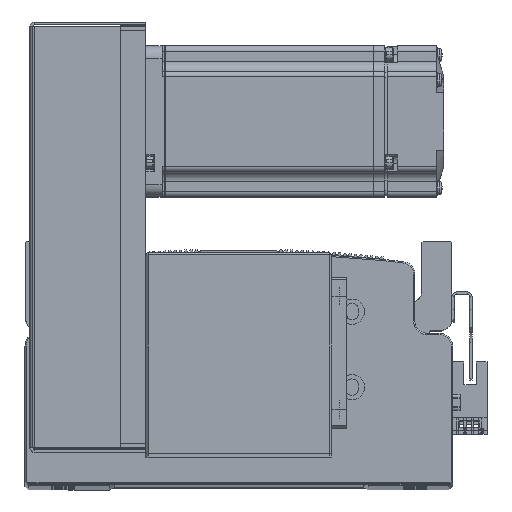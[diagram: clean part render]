
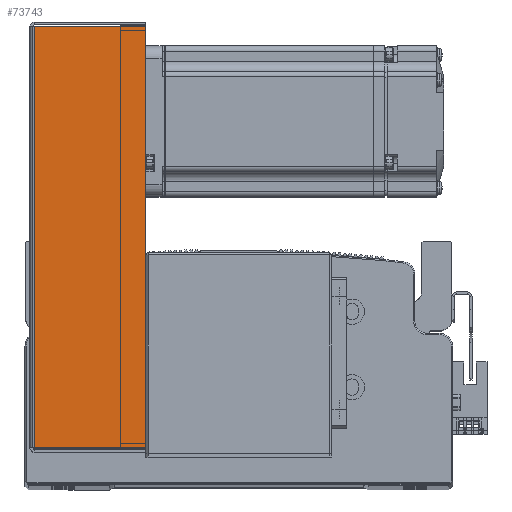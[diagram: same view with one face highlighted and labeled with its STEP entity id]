
A CAD part, top view. The second image highlights one B-rep face of the part: STEP entity #73743.
In plain terms, the highlighted planar face has unit normal (0, 0, 1) as drawn and (0, 0, -1) by its records, which use the part's own axes.
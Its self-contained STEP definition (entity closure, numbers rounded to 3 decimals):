
#1293 = DIRECTION ( 'NONE',  ( 1., 0., 0. ) ) ;
#1295 = CARTESIAN_POINT ( 'NONE',  ( 0., 0.737, -40.5 ) ) ;
#1296 = CARTESIAN_POINT ( 'NONE',  ( 84.5, 45., -40.5 ) ) ;
#1346 = CARTESIAN_POINT ( 'NONE',  ( -83.793, 0., -40.5 ) ) ;
#1356 = DIRECTION ( 'NONE',  ( 1., 0., 0. ) ) ;
#1357 = CARTESIAN_POINT ( 'NONE',  ( 83.793, 0., -40.5 ) ) ;
#1365 = DIRECTION ( 'NONE',  ( 0., 1., 0. ) ) ;
#1373 = DIRECTION ( 'NONE',  ( 0., 1., 0. ) ) ;
#2589 = VECTOR ( 'NONE', #1356, 1000. ) ;
#2601 = VECTOR ( 'NONE', #1365, 1000. ) ;
#2606 = LINE ( 'NONE', #1296, #2589 ) ;
#2609 = LINE ( 'NONE', #1357, #2601 ) ;
#2643 = VECTOR ( 'NONE', #1373, 1000. ) ;
#2646 = LINE ( 'NONE', #1295, #2666 ) ;
#2666 = VECTOR ( 'NONE', #1293, 1000. ) ;
#2668 = LINE ( 'NONE', #1346, #2643 ) ;
#11625 = FACE_OUTER_BOUND ( 'NONE', #34454, .T. ) ;
#13760 = ORIENTED_EDGE ( 'NONE', *, *, #51750, .T. ) ;
#13791 = ORIENTED_EDGE ( 'NONE', *, *, #51754, .F. ) ;
#15884 = VERTEX_POINT ( 'NONE', #23181 ) ;
#15887 = VERTEX_POINT ( 'NONE', #23262 ) ;
#15902 = VERTEX_POINT ( 'NONE', #23277 ) ;
#15907 = VERTEX_POINT ( 'NONE', #23241 ) ;
#23181 = CARTESIAN_POINT ( 'NONE',  ( -83.793, 0.737, -40.5 ) ) ;
#23241 = CARTESIAN_POINT ( 'NONE',  ( -83.793, 45., -40.5 ) ) ;
#23262 = CARTESIAN_POINT ( 'NONE',  ( 83.793, 45., -40.5 ) ) ;
#23277 = CARTESIAN_POINT ( 'NONE',  ( 83.793, 0.737, -40.5 ) ) ;
#29735 = ORIENTED_EDGE ( 'NONE', *, *, #51745, .F. ) ;
#29737 = ORIENTED_EDGE ( 'NONE', *, *, #51760, .T. ) ;
#34454 = EDGE_LOOP ( 'NONE', ( #29735, #29737, #13760, #13791 ) ) ;
#38929 = AXIS2_PLACEMENT_3D ( 'NONE', #56836, #56838, #56848 ) ;
#51745 = EDGE_CURVE ( 'NONE', #15884, #15902, #2646, .T. ) ;
#51750 = EDGE_CURVE ( 'NONE', #15907, #15887, #2606, .T. ) ;
#51754 = EDGE_CURVE ( 'NONE', #15902, #15887, #2609, .T. ) ;
#51760 = EDGE_CURVE ( 'NONE', #15884, #15907, #2668, .T. ) ;
#56803 = PLANE ( 'NONE',  #38929 ) ;
#56836 = CARTESIAN_POINT ( 'NONE',  ( 0., 0., -40.5 ) ) ;
#56838 = DIRECTION ( 'NONE',  ( 0., 0., 1. ) ) ;
#56848 = DIRECTION ( 'NONE',  ( 0., -1., 0. ) ) ;
#73743 = ADVANCED_FACE ( 'NONE', ( #11625 ), #56803, .F. ) ;
